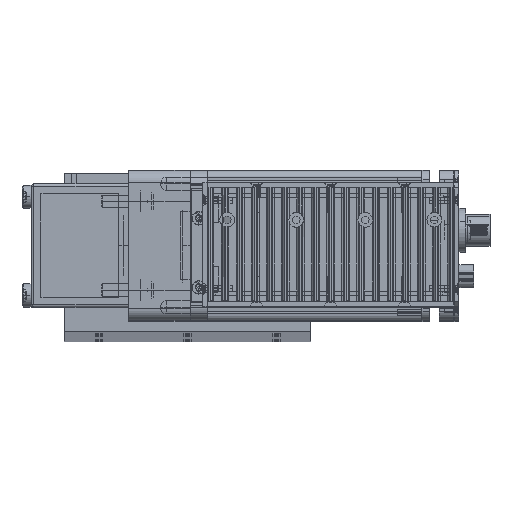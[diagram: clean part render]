
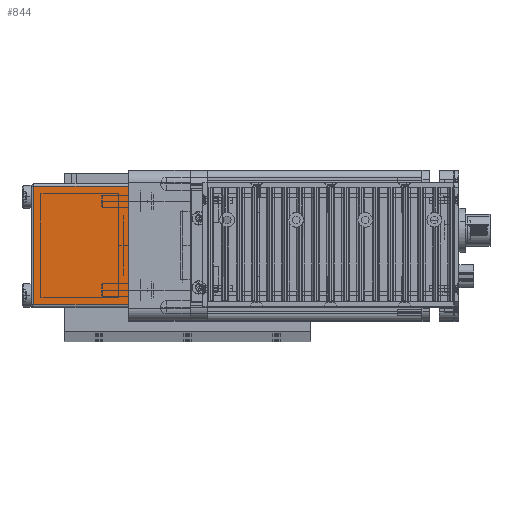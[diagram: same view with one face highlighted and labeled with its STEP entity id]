
A CAD part, top view. The second image highlights one B-rep face of the part: STEP entity #844.
In plain terms, the highlighted planar face has unit normal (0, 0, 1) as drawn and (1, 0, 0) by its records, which use the part's own axes.
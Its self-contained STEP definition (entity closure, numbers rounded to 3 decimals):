
#650 = EDGE_LOOP ( 'NONE', ( #49374, #860, #811, #969 ) ) ;
#811 = ORIENTED_EDGE ( 'NONE', *, *, #49402, .F. ) ;
#844 = ADVANCED_FACE ( 'NONE', ( #16111 ), #16108, .F. ) ;
#860 = ORIENTED_EDGE ( 'NONE', *, *, #866, .T. ) ;
#866 = EDGE_CURVE ( 'NONE', #49404, #49348, #16247, .T. ) ;
#891 = EDGE_CURVE ( 'NONE', #49399, #49307, #16292, .T. ) ;
#969 = ORIENTED_EDGE ( 'NONE', *, *, #891, .F. ) ;
#16097 = AXIS2_PLACEMENT_3D ( 'NONE', #16218, #16203, #16202 ) ;
#16108 = PLANE ( 'NONE',  #16097 ) ;
#16111 = FACE_OUTER_BOUND ( 'NONE', #650, .T. ) ;
#16202 = DIRECTION ( 'NONE',  ( 0., -1., 0. ) ) ;
#16203 = DIRECTION ( 'NONE',  ( -1., 0., 0. ) ) ;
#16218 = CARTESIAN_POINT ( 'NONE',  ( 62., 25., 39.5 ) ) ;
#16241 = DIRECTION ( 'NONE',  ( 0., 1., 0. ) ) ;
#16242 = VECTOR ( 'NONE', #16241, 1000. ) ;
#16245 = CARTESIAN_POINT ( 'NONE',  ( 62., -25., 0. ) ) ;
#16247 = LINE ( 'NONE', #16245, #16242 ) ;
#16292 = LINE ( 'NONE', #16395, #16394 ) ;
#16393 = DIRECTION ( 'NONE',  ( 0., 1., 0. ) ) ;
#16394 = VECTOR ( 'NONE', #16393, 1000. ) ;
#16395 = CARTESIAN_POINT ( 'NONE',  ( 62., -25., 38.5 ) ) ;
#22946 = LINE ( 'NONE', #23066, #23065 ) ;
#23064 = DIRECTION ( 'NONE',  ( 0., 0., 1. ) ) ;
#23065 = VECTOR ( 'NONE', #23064, 1000. ) ;
#23066 = CARTESIAN_POINT ( 'NONE',  ( 62., -24., 39.5 ) ) ;
#24761 = CARTESIAN_POINT ( 'NONE',  ( 62., 24., 38.5 ) ) ;
#24805 = CARTESIAN_POINT ( 'NONE',  ( 62., 24., 0. ) ) ;
#25024 = CARTESIAN_POINT ( 'NONE',  ( 62., -24., 38.5 ) ) ;
#25101 = DIRECTION ( 'NONE',  ( 0., 0., -1. ) ) ;
#25102 = VECTOR ( 'NONE', #25101, 1000. ) ;
#25104 = CARTESIAN_POINT ( 'NONE',  ( 62., 24., 39.5 ) ) ;
#25106 = LINE ( 'NONE', #25104, #25102 ) ;
#25144 = CARTESIAN_POINT ( 'NONE',  ( 62., -24., 0. ) ) ;
#48823 = EDGE_CURVE ( 'NONE', #49404, #49399, #22946, .T. ) ;
#49307 = VERTEX_POINT ( 'NONE', #24761 ) ;
#49348 = VERTEX_POINT ( 'NONE', #24805 ) ;
#49374 = ORIENTED_EDGE ( 'NONE', *, *, #48823, .F. ) ;
#49399 = VERTEX_POINT ( 'NONE', #25024 ) ;
#49402 = EDGE_CURVE ( 'NONE', #49307, #49348, #25106, .T. ) ;
#49404 = VERTEX_POINT ( 'NONE', #25144 ) ;
